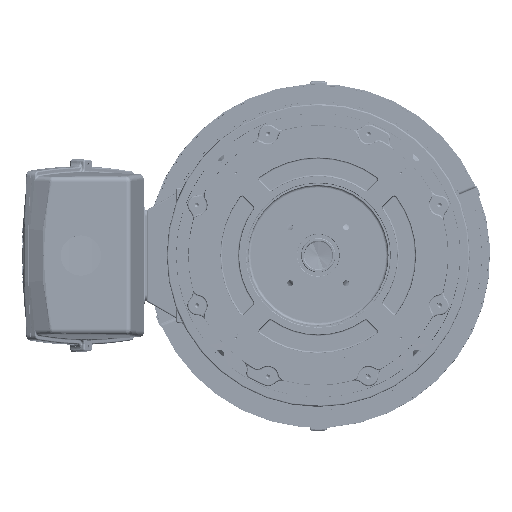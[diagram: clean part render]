
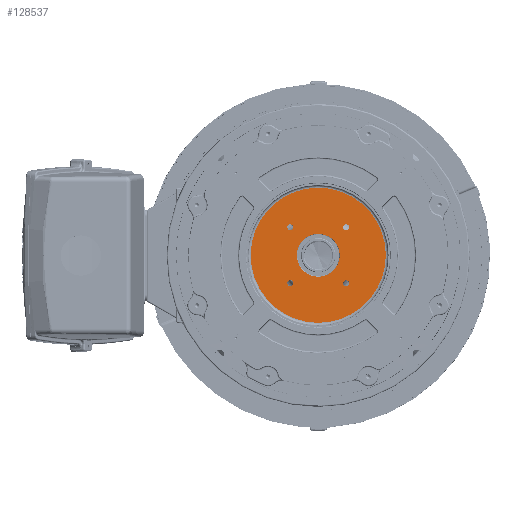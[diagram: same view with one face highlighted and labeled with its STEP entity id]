
A CAD part, top view. The second image highlights one B-rep face of the part: STEP entity #128537.
In plain terms, the highlighted planar face has unit normal (0, 0, 1).
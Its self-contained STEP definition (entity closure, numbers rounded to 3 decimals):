
#116880=CARTESIAN_POINT('',(0.,0.,-0.81));
#116881=DIRECTION('',(0.,0.,-1.));
#116882=DIRECTION('',(0.,1.,0.));
#116883=AXIS2_PLACEMENT_3D('',#116880,#116881,#116882);
#116885=CARTESIAN_POINT('',(0.,0.,-0.81));
#116886=DIRECTION('',(0.,0.,-1.));
#116887=DIRECTION('',(0.,-1.,0.));
#116888=AXIS2_PLACEMENT_3D('',#116885,#116886,#116887);
#116890=CARTESIAN_POINT('',(-2.607,2.607,-0.81));
#116891=DIRECTION('',(0.,0.,1.));
#116892=DIRECTION('',(1.,0.,0.));
#116893=AXIS2_PLACEMENT_3D('',#116890,#116891,#116892);
#116895=CARTESIAN_POINT('',(-2.607,2.607,-0.81));
#116896=DIRECTION('',(0.,0.,1.));
#116897=DIRECTION('',(-1.,0.,0.));
#116898=AXIS2_PLACEMENT_3D('',#116895,#116896,#116897);
#116900=CARTESIAN_POINT('',(2.607,2.607,-0.81));
#116901=DIRECTION('',(0.,0.,1.));
#116902=DIRECTION('',(1.,0.,0.));
#116903=AXIS2_PLACEMENT_3D('',#116900,#116901,#116902);
#116905=CARTESIAN_POINT('',(2.607,2.607,-0.81));
#116906=DIRECTION('',(0.,0.,1.));
#116907=DIRECTION('',(-1.,0.,0.));
#116908=AXIS2_PLACEMENT_3D('',#116905,#116906,#116907);
#116910=CARTESIAN_POINT('',(2.607,-2.607,-0.81));
#116911=DIRECTION('',(0.,0.,1.));
#116912=DIRECTION('',(1.,0.,0.));
#116913=AXIS2_PLACEMENT_3D('',#116910,#116911,#116912);
#116915=CARTESIAN_POINT('',(2.607,-2.607,-0.81));
#116916=DIRECTION('',(0.,0.,1.));
#116917=DIRECTION('',(-1.,0.,0.));
#116918=AXIS2_PLACEMENT_3D('',#116915,#116916,#116917);
#116920=CARTESIAN_POINT('',(-2.607,-2.607,-0.81));
#116921=DIRECTION('',(0.,0.,1.));
#116922=DIRECTION('',(1.,0.,0.));
#116923=AXIS2_PLACEMENT_3D('',#116920,#116921,#116922);
#116925=CARTESIAN_POINT('',(-2.607,-2.607,-0.81));
#116926=DIRECTION('',(0.,0.,1.));
#116927=DIRECTION('',(-1.,0.,0.));
#116928=AXIS2_PLACEMENT_3D('',#116925,#116926,#116927);
#116930=CARTESIAN_POINT('',(0.,0.,-0.81));
#116931=DIRECTION('',(0.,0.,1.));
#116932=DIRECTION('',(0.,-1.,0.));
#116933=AXIS2_PLACEMENT_3D('',#116930,#116931,#116932);
#116935=CARTESIAN_POINT('',(0.,0.,-0.81));
#116936=DIRECTION('',(0.,0.,1.));
#116937=DIRECTION('',(0.,1.,0.));
#116938=AXIS2_PLACEMENT_3D('',#116935,#116936,#116937);
#124395=CARTESIAN_POINT('',(0.,-2.,-0.81));
#124396=CARTESIAN_POINT('',(0.,2.,-0.81));
#124397=VERTEX_POINT('',#124395);
#124398=VERTEX_POINT('',#124396);
#124399=CARTESIAN_POINT('',(0.,6.3,-0.81));
#124400=CARTESIAN_POINT('',(0.,-6.3,-0.81));
#124401=VERTEX_POINT('',#124399);
#124402=VERTEX_POINT('',#124400);
#124403=CARTESIAN_POINT('',(-2.326,2.607,-0.81));
#124404=CARTESIAN_POINT('',(-2.889,2.607,-0.81));
#124405=VERTEX_POINT('',#124403);
#124406=VERTEX_POINT('',#124404);
#124407=CARTESIAN_POINT('',(2.889,2.607,-0.81));
#124408=CARTESIAN_POINT('',(2.326,2.607,-0.81));
#124409=VERTEX_POINT('',#124407);
#124410=VERTEX_POINT('',#124408);
#124411=CARTESIAN_POINT('',(2.889,-2.607,-0.81));
#124412=CARTESIAN_POINT('',(2.326,-2.607,-0.81));
#124413=VERTEX_POINT('',#124411);
#124414=VERTEX_POINT('',#124412);
#124415=CARTESIAN_POINT('',(-2.326,-2.607,-0.81));
#124416=CARTESIAN_POINT('',(-2.889,-2.607,-0.81));
#124417=VERTEX_POINT('',#124415);
#124418=VERTEX_POINT('',#124416);
#128498=CARTESIAN_POINT('',(0.,0.,-0.81));
#128499=DIRECTION('',(0.,0.,1.));
#128500=DIRECTION('',(0.,1.,0.));
#128501=AXIS2_PLACEMENT_3D('',#128498,#128499,#128500);
#128502=PLANE('',#128501);
#128503=ORIENTED_EDGE('',*,*,#128480,.T.);
#128504=ORIENTED_EDGE('',*,*,#128491,.T.);
#128505=EDGE_LOOP('',(#128503,#128504));
#128506=FACE_OUTER_BOUND('',#128505,.F.);
#128508=ORIENTED_EDGE('',*,*,#128507,.T.);
#128510=ORIENTED_EDGE('',*,*,#128509,.T.);
#128511=EDGE_LOOP('',(#128508,#128510));
#128512=FACE_BOUND('',#128511,.F.);
#128514=ORIENTED_EDGE('',*,*,#128513,.T.);
#128516=ORIENTED_EDGE('',*,*,#128515,.T.);
#128517=EDGE_LOOP('',(#128514,#128516));
#128518=FACE_BOUND('',#128517,.F.);
#128520=ORIENTED_EDGE('',*,*,#128519,.T.);
#128522=ORIENTED_EDGE('',*,*,#128521,.T.);
#128523=EDGE_LOOP('',(#128520,#128522));
#128524=FACE_BOUND('',#128523,.F.);
#128526=ORIENTED_EDGE('',*,*,#128525,.T.);
#128528=ORIENTED_EDGE('',*,*,#128527,.T.);
#128529=EDGE_LOOP('',(#128526,#128528));
#128530=FACE_BOUND('',#128529,.F.);
#128532=ORIENTED_EDGE('',*,*,#128531,.T.);
#128534=ORIENTED_EDGE('',*,*,#128533,.T.);
#128535=EDGE_LOOP('',(#128532,#128534));
#128536=FACE_BOUND('',#128535,.F.);
#128537=ADVANCED_FACE('',(#128506,#128512,#128518,#128524,#128530,#128536),
#128502,.T.);
#116884=CIRCLE('',#116883,6.3);
#116889=CIRCLE('',#116888,6.3);
#116894=CIRCLE('',#116893,0.282);
#116899=CIRCLE('',#116898,0.282);
#116904=CIRCLE('',#116903,0.282);
#116909=CIRCLE('',#116908,0.282);
#116914=CIRCLE('',#116913,0.282);
#116919=CIRCLE('',#116918,0.282);
#116924=CIRCLE('',#116923,0.282);
#116929=CIRCLE('',#116928,0.282);
#116934=CIRCLE('',#116933,2.);
#116939=CIRCLE('',#116938,2.);
#128480=EDGE_CURVE('',#124401,#124402,#116884,.T.);
#128491=EDGE_CURVE('',#124402,#124401,#116889,.T.);
#128507=EDGE_CURVE('',#124405,#124406,#116894,.T.);
#128509=EDGE_CURVE('',#124406,#124405,#116899,.T.);
#128513=EDGE_CURVE('',#124409,#124410,#116904,.T.);
#128515=EDGE_CURVE('',#124410,#124409,#116909,.T.);
#128519=EDGE_CURVE('',#124413,#124414,#116914,.T.);
#128521=EDGE_CURVE('',#124414,#124413,#116919,.T.);
#128525=EDGE_CURVE('',#124417,#124418,#116924,.T.);
#128527=EDGE_CURVE('',#124418,#124417,#116929,.T.);
#128531=EDGE_CURVE('',#124397,#124398,#116934,.T.);
#128533=EDGE_CURVE('',#124398,#124397,#116939,.T.);
